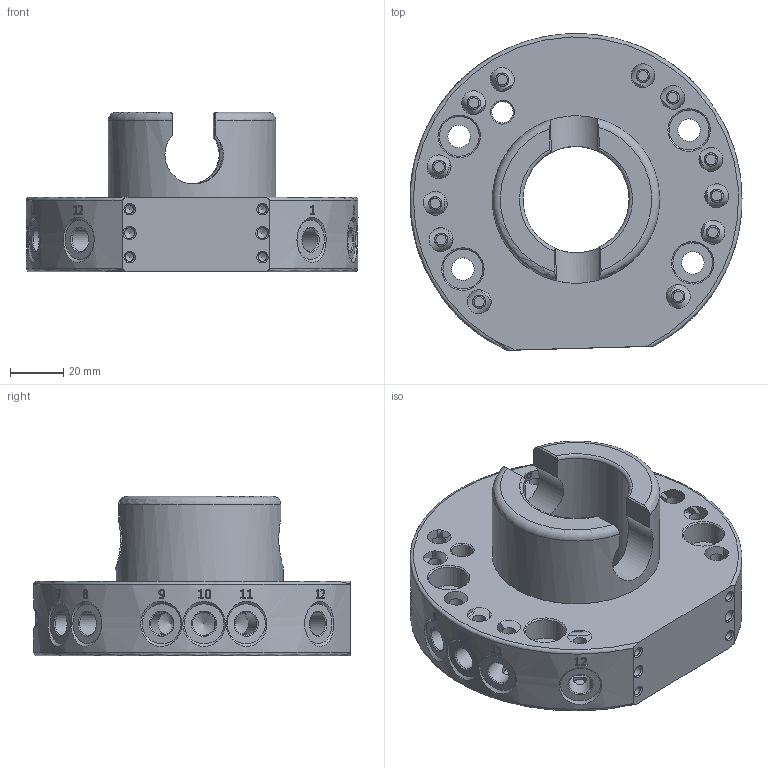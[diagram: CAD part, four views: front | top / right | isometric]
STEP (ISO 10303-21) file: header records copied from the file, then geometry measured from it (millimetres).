
FILE_DESCRIPTION(/* description */ (''),/* implementation_level */ '2;1');
FILE_NAME(/* name */ 'G-SHS125-U-A100.stp',/* time_stamp */ '2024-05-24T11:29:27+02:00',/* author */ ('ysplieth'),/* organization */ (''),/* preprocessor_version */ 'ST-DEVELOPER v20',/* originating_system */ 'Autodesk Inventor 2024',/* authorisation */ '');
FILE_SCHEMA (('AUTOMOTIVE_DESIGN { 1 0 10303 214 3 1 1 }'));
Length unit declared in the file: millimetre
Products named in the file (1): Bauteil1
Bounding box: 125 x 119.23 x 60 mm (x, y, z)
Volume: 308804.4 mm3; surface area: 56460.1 mm2
Topology: 1 solids, 1 shells, 794 faces, 2080 edges, 1373 vertices
Faces by surface type: plane 337, bspline 222, cone 122, cylinder 105, torus 8
Full cylindrical faces by diameter (mm): 3.3 x4, 4 x2, 5 x36, 8 x2, 8.5 x4, 8.7 x12, 9 x12, 15 x4, 40 x1, 63 x2
Entity records: 63027 total; most frequent: CARTESIAN_POINT 44637, ORIENTED_EDGE 4098, DIRECTION 2805, EDGE_CURVE 2049, VERTEX_POINT 1373, LINE 993, VECTOR 993, EDGE_LOOP 946
